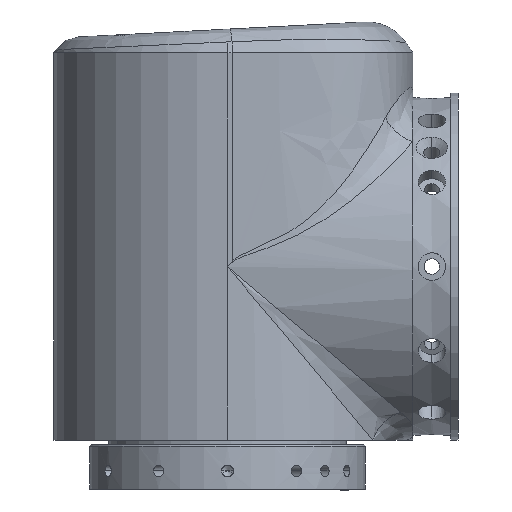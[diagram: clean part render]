
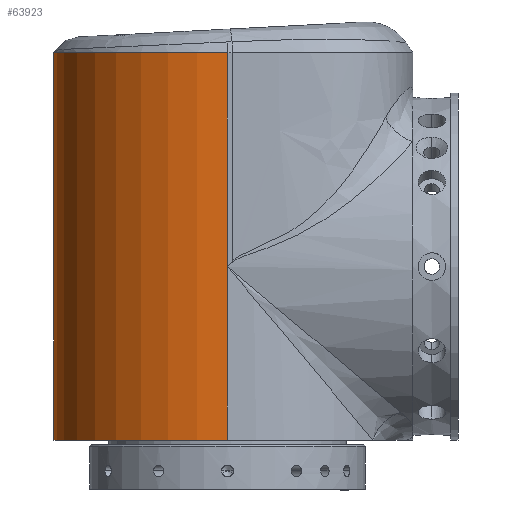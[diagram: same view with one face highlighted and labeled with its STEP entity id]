
A CAD part, left-side view. The second image highlights one B-rep face of the part: STEP entity #63923.
In plain terms, the highlighted cylindrical face has radius 36.5 mm (diameter 73 mm), a partial arc.
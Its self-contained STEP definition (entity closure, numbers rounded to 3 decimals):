
#3079 = CARTESIAN_POINT ( 'NONE',  ( -36.5, 0., -36.5 ) ) ;
#7315 = EDGE_CURVE ( 'NONE', #82699, #68711, #25852, .T. ) ;
#9401 = VERTEX_POINT ( 'NONE', #68303 ) ;
#9588 = ORIENTED_EDGE ( 'NONE', *, *, #23644, .F. ) ;
#11193 = EDGE_CURVE ( 'NONE', #9401, #69213, #25210, .T. ) ;
#12257 = CYLINDRICAL_SURFACE ( 'NONE', #37946, 36.5 ) ;
#18867 = DIRECTION ( 'NONE',  ( -1., 0., 0. ) ) ;
#19146 = DIRECTION ( 'NONE',  ( -1., 0., 0. ) ) ;
#19166 = FACE_OUTER_BOUND ( 'NONE', #92855, .T. ) ;
#19272 = CARTESIAN_POINT ( 'NONE',  ( -36.5, 0., 45. ) ) ;
#20371 = LINE ( 'NONE', #53529, #88038 ) ;
#23644 = EDGE_CURVE ( 'NONE', #56724, #82699, #20371, .T. ) ;
#25210 = LINE ( 'NONE', #39406, #35519 ) ;
#25750 = EDGE_CURVE ( 'NONE', #69213, #86589, #46382, .T. ) ;
#25852 = LINE ( 'NONE', #39579, #88917 ) ;
#33920 = DIRECTION ( 'NONE',  ( 0., 0., -1. ) ) ;
#35519 = VECTOR ( 'NONE', #91606, 1000. ) ;
#37946 = AXIS2_PLACEMENT_3D ( 'NONE', #92232, #55005, #19146 ) ;
#39406 = CARTESIAN_POINT ( 'NONE',  ( 36.5, 0., 45. ) ) ;
#39579 = CARTESIAN_POINT ( 'NONE',  ( -36.5, 0., 45. ) ) ;
#46382 = LINE ( 'NONE', #68729, #75036 ) ;
#47177 = CARTESIAN_POINT ( 'NONE',  ( 0., 0., 45. ) ) ;
#53529 = CARTESIAN_POINT ( 'NONE',  ( -36.5, 0., 45. ) ) ;
#54218 = DIRECTION ( 'NONE',  ( -1., 0., 0. ) ) ;
#54299 = DIRECTION ( 'NONE',  ( 0., 0., -1. ) ) ;
#55005 = DIRECTION ( 'NONE',  ( 0., 0., -1. ) ) ;
#56724 = VERTEX_POINT ( 'NONE', #19272 ) ;
#60705 = ORIENTED_EDGE ( 'NONE', *, *, #85890, .F. ) ;
#60709 = CARTESIAN_POINT ( 'NONE',  ( 36.5, 0., 0. ) ) ;
#61198 = ORIENTED_EDGE ( 'NONE', *, *, #75765, .T. ) ;
#61859 = CIRCLE ( 'NONE', #64291, 36.5 ) ;
#63923 = ADVANCED_FACE ( 'NONE', ( #19166 ), #12257, .T. ) ;
#64291 = AXIS2_PLACEMENT_3D ( 'NONE', #92558, #33920, #18867 ) ;
#65184 = CIRCLE ( 'NONE', #81567, 36.5 ) ;
#68303 = CARTESIAN_POINT ( 'NONE',  ( 36.5, 0., 45. ) ) ;
#68711 = VERTEX_POINT ( 'NONE', #3079 ) ;
#68729 = CARTESIAN_POINT ( 'NONE',  ( 36.5, 0., 45. ) ) ;
#69213 = VERTEX_POINT ( 'NONE', #60709 ) ;
#74843 = DIRECTION ( 'NONE',  ( 0., 0., -1. ) ) ;
#75036 = VECTOR ( 'NONE', #74843, 1000. ) ;
#75765 = EDGE_CURVE ( 'NONE', #56724, #9401, #65184, .T. ) ;
#79692 = ORIENTED_EDGE ( 'NONE', *, *, #25750, .T. ) ;
#81567 = AXIS2_PLACEMENT_3D ( 'NONE', #47177, #90450, #54218 ) ;
#82699 = VERTEX_POINT ( 'NONE', #84700 ) ;
#84700 = CARTESIAN_POINT ( 'NONE',  ( -36.5, 0., 0. ) ) ;
#85890 = EDGE_CURVE ( 'NONE', #68711, #86589, #61859, .T. ) ;
#86589 = VERTEX_POINT ( 'NONE', #93416 ) ;
#88016 = ORIENTED_EDGE ( 'NONE', *, *, #11193, .T. ) ;
#88038 = VECTOR ( 'NONE', #90106, 1000. ) ;
#88917 = VECTOR ( 'NONE', #54299, 1000. ) ;
#90091 = ORIENTED_EDGE ( 'NONE', *, *, #7315, .F. ) ;
#90106 = DIRECTION ( 'NONE',  ( 0., 0., -1. ) ) ;
#90450 = DIRECTION ( 'NONE',  ( 0., 0., -1. ) ) ;
#91606 = DIRECTION ( 'NONE',  ( 0., 0., -1. ) ) ;
#92232 = CARTESIAN_POINT ( 'NONE',  ( 0., 0., 45. ) ) ;
#92558 = CARTESIAN_POINT ( 'NONE',  ( 0., 0., -36.5 ) ) ;
#92855 = EDGE_LOOP ( 'NONE', ( #61198, #88016, #79692, #60705, #90091, #9588 ) ) ;
#93416 = CARTESIAN_POINT ( 'NONE',  ( 36.5, 0., -36.5 ) ) ;
